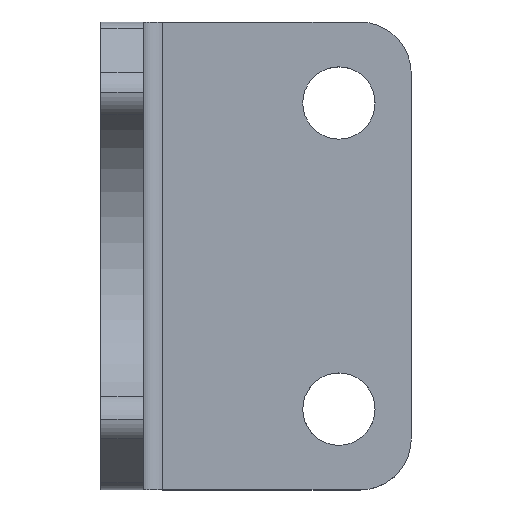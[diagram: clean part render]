
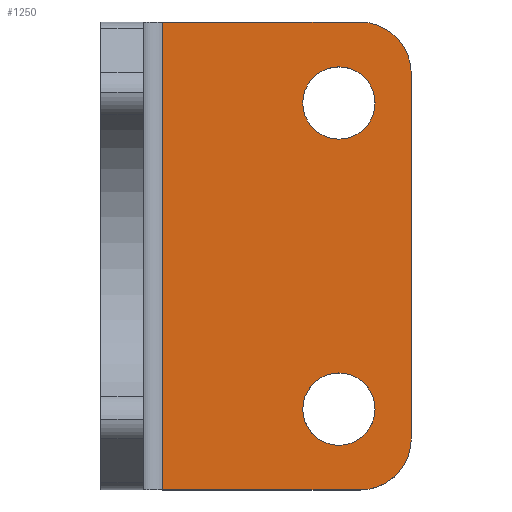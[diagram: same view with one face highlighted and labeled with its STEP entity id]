
A CAD part, top view. The second image highlights one B-rep face of the part: STEP entity #1250.
In plain terms, the highlighted planar face has unit normal (0, 0, 1).
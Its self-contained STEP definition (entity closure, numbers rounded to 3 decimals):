
#763=CARTESIAN_POINT('Vertex',(7.25,27.5,0.)) ;
#789=CARTESIAN_POINT('Vertex',(7.25,-27.5,0.)) ;
#844=CARTESIAN_POINT('Vertex',(23.75,18.,0.)) ;
#847=CARTESIAN_POINT('Axis2P3D Location',(28.,18.,0.)) ;
#851=CARTESIAN_POINT('Vertex',(28.,13.75,0.)) ;
#871=CARTESIAN_POINT('Axis2P3D Location',(28.,18.,0.)) ;
#875=CARTESIAN_POINT('Vertex',(28.,22.25,0.)) ;
#908=CARTESIAN_POINT('Vertex',(32.25,18.,0.)) ;
#911=CARTESIAN_POINT('Axis2P3D Location',(28.,18.,0.)) ;
#923=CARTESIAN_POINT('Axis2P3D Location',(28.,18.,0.)) ;
#945=CARTESIAN_POINT('Line Origine',(7.25,0.,0.)) ;
#962=CARTESIAN_POINT('Line Origine',(18.875,27.5,0.)) ;
#966=CARTESIAN_POINT('Vertex',(30.5,27.5,0.)) ;
#1006=CARTESIAN_POINT('Vertex',(36.5,21.5,0.)) ;
#1009=CARTESIAN_POINT('Line Origine',(36.5,0.,0.)) ;
#1013=CARTESIAN_POINT('Vertex',(36.5,-21.5,0.)) ;
#1044=CARTESIAN_POINT('Vertex',(30.5,-27.5,0.)) ;
#1047=CARTESIAN_POINT('Line Origine',(18.875,-27.5,0.)) ;
#1069=CARTESIAN_POINT('Axis2P3D Location',(30.5,21.5,0.)) ;
#1091=CARTESIAN_POINT('Axis2P3D Location',(30.5,-21.5,0.)) ;
#1108=CARTESIAN_POINT('Axis2P3D Location',(28.,-18.,0.)) ;
#1112=CARTESIAN_POINT('Vertex',(28.,-13.75,0.)) ;
#1114=CARTESIAN_POINT('Vertex',(23.75,-18.,0.)) ;
#1192=CARTESIAN_POINT('Vertex',(32.25,-18.,0.)) ;
#1195=CARTESIAN_POINT('Axis2P3D Location',(28.,-18.,0.)) ;
#1207=CARTESIAN_POINT('Axis2P3D Location',(0.,0.,0.)) ;
#1221=CARTESIAN_POINT('Control Point',(28.,-22.25,0.)) ;
#1222=CARTESIAN_POINT('Control Point',(29.335,-22.25,0.)) ;
#1223=CARTESIAN_POINT('Control Point',(30.672,-21.727,0.)) ;
#1224=CARTESIAN_POINT('Control Point',(31.727,-20.672,0.)) ;
#1225=CARTESIAN_POINT('Control Point',(32.25,-19.335,0.)) ;
#1226=CARTESIAN_POINT('Control Point',(32.25,-18.,0.)) ;
#1227=CARTESIAN_POINT('Vertex',(28.,-22.25,0.)) ;
#1231=CARTESIAN_POINT('Control Point',(23.75,-18.,0.)) ;
#1232=CARTESIAN_POINT('Control Point',(23.75,-19.335,0.)) ;
#1233=CARTESIAN_POINT('Control Point',(24.273,-20.672,0.)) ;
#1234=CARTESIAN_POINT('Control Point',(25.328,-21.727,0.)) ;
#1235=CARTESIAN_POINT('Control Point',(26.665,-22.25,0.)) ;
#1236=CARTESIAN_POINT('Control Point',(28.,-22.25,0.)) ;
#848=DIRECTION('Axis2P3D Direction',(0.,0.,1.)) ;
#872=DIRECTION('Axis2P3D Direction',(0.,0.,1.)) ;
#912=DIRECTION('Axis2P3D Direction',(0.,0.,1.)) ;
#924=DIRECTION('Axis2P3D Direction',(0.,0.,1.)) ;
#946=DIRECTION('Vector Direction',(0.,1.,0.)) ;
#963=DIRECTION('Vector Direction',(-1.,0.,0.)) ;
#1010=DIRECTION('Vector Direction',(0.,-1.,0.)) ;
#1048=DIRECTION('Vector Direction',(-1.,0.,0.)) ;
#1070=DIRECTION('Axis2P3D Direction',(0.,0.,1.)) ;
#1092=DIRECTION('Axis2P3D Direction',(0.,0.,1.)) ;
#1109=DIRECTION('Axis2P3D Direction',(0.,0.,1.)) ;
#1196=DIRECTION('Axis2P3D Direction',(0.,0.,1.)) ;
#1208=DIRECTION('Axis2P3D Direction',(0.,0.,1.)) ;
#1209=DIRECTION('Axis2P3D XDirection',(0.,-1.,0.)) ;
#849=AXIS2_PLACEMENT_3D('Circle Axis2P3D',#847,#848,$) ;
#873=AXIS2_PLACEMENT_3D('Circle Axis2P3D',#871,#872,$) ;
#913=AXIS2_PLACEMENT_3D('Circle Axis2P3D',#911,#912,$) ;
#925=AXIS2_PLACEMENT_3D('Circle Axis2P3D',#923,#924,$) ;
#1071=AXIS2_PLACEMENT_3D('Circle Axis2P3D',#1069,#1070,$) ;
#1093=AXIS2_PLACEMENT_3D('Circle Axis2P3D',#1091,#1092,$) ;
#1110=AXIS2_PLACEMENT_3D('Circle Axis2P3D',#1108,#1109,$) ;
#1197=AXIS2_PLACEMENT_3D('Circle Axis2P3D',#1195,#1196,$) ;
#1210=AXIS2_PLACEMENT_3D('Plane Axis2P3D',#1207,#1208,#1209) ;
#1213=ORIENTED_EDGE('',*,*,#949,.F.) ;
#1214=ORIENTED_EDGE('',*,*,#1051,.F.) ;
#1215=ORIENTED_EDGE('',*,*,#1095,.T.) ;
#1216=ORIENTED_EDGE('',*,*,#1015,.F.) ;
#1217=ORIENTED_EDGE('',*,*,#1073,.T.) ;
#1218=ORIENTED_EDGE('',*,*,#968,.T.) ;
#1239=ORIENTED_EDGE('',*,*,#1229,.F.) ;
#1240=ORIENTED_EDGE('',*,*,#1237,.F.) ;
#1241=ORIENTED_EDGE('',*,*,#1116,.F.) ;
#1242=ORIENTED_EDGE('',*,*,#1199,.F.) ;
#1245=ORIENTED_EDGE('',*,*,#927,.F.) ;
#1246=ORIENTED_EDGE('',*,*,#853,.F.) ;
#1247=ORIENTED_EDGE('',*,*,#877,.F.) ;
#1248=ORIENTED_EDGE('',*,*,#915,.F.) ;
#1243=FACE_BOUND('',#1238,.T.) ;
#1249=FACE_BOUND('',#1244,.T.) ;
#947=VECTOR('Line Direction',#946,1.) ;
#964=VECTOR('Line Direction',#963,1.) ;
#1011=VECTOR('Line Direction',#1010,1.) ;
#1049=VECTOR('Line Direction',#1048,1.) ;
#1250=ADVANCED_FACE('PartBody',(#1219,#1243,#1249),#1211,.T.) ;
#1220=B_SPLINE_CURVE_WITH_KNOTS('',5,(#1221,#1222,#1223,#1224,#1225,#1226),.UNSPECIFIED.,.F.,.U.,(6,6),(26.704,33.379),.UNSPECIFIED.) ;
#1230=B_SPLINE_CURVE_WITH_KNOTS('',5,(#1231,#1232,#1233,#1234,#1235,#1236),.UNSPECIFIED.,.F.,.U.,(6,6),(20.028,26.704),.UNSPECIFIED.) ;
#850=CIRCLE('generated circle',#849,4.25) ;
#874=CIRCLE('generated circle',#873,4.25) ;
#914=CIRCLE('generated circle',#913,4.25) ;
#926=CIRCLE('generated circle',#925,4.25) ;
#1072=CIRCLE('generated circle',#1071,6.) ;
#1094=CIRCLE('generated circle',#1093,6.) ;
#1111=CIRCLE('generated circle',#1110,4.25) ;
#1198=CIRCLE('generated circle',#1197,4.25) ;
#853=EDGE_CURVE('',#845,#852,#850,.T.) ;
#877=EDGE_CURVE('',#876,#845,#874,.T.) ;
#915=EDGE_CURVE('',#909,#876,#914,.T.) ;
#927=EDGE_CURVE('',#852,#909,#926,.T.) ;
#949=EDGE_CURVE('',#790,#764,#948,.T.) ;
#968=EDGE_CURVE('',#967,#764,#965,.T.) ;
#1015=EDGE_CURVE('',#1007,#1014,#1012,.T.) ;
#1051=EDGE_CURVE('',#1045,#790,#1050,.T.) ;
#1073=EDGE_CURVE('',#1007,#967,#1072,.T.) ;
#1095=EDGE_CURVE('',#1045,#1014,#1094,.T.) ;
#1116=EDGE_CURVE('',#1113,#1115,#1111,.T.) ;
#1199=EDGE_CURVE('',#1193,#1113,#1198,.T.) ;
#1229=EDGE_CURVE('',#1228,#1193,#1220,.T.) ;
#1237=EDGE_CURVE('',#1115,#1228,#1230,.T.) ;
#1212=EDGE_LOOP('',(#1213,#1214,#1215,#1216,#1217,#1218)) ;
#1238=EDGE_LOOP('',(#1239,#1240,#1241,#1242)) ;
#1244=EDGE_LOOP('',(#1245,#1246,#1247,#1248)) ;
#1219=FACE_OUTER_BOUND('',#1212,.T.) ;
#948=LINE('Line',#945,#947) ;
#965=LINE('Line',#962,#964) ;
#1012=LINE('Line',#1009,#1011) ;
#1050=LINE('Line',#1047,#1049) ;
#1211=PLANE('',#1210) ;
#764=VERTEX_POINT('',#763) ;
#790=VERTEX_POINT('',#789) ;
#845=VERTEX_POINT('',#844) ;
#852=VERTEX_POINT('',#851) ;
#876=VERTEX_POINT('',#875) ;
#909=VERTEX_POINT('',#908) ;
#967=VERTEX_POINT('',#966) ;
#1007=VERTEX_POINT('',#1006) ;
#1014=VERTEX_POINT('',#1013) ;
#1045=VERTEX_POINT('',#1044) ;
#1113=VERTEX_POINT('',#1112) ;
#1115=VERTEX_POINT('',#1114) ;
#1193=VERTEX_POINT('',#1192) ;
#1228=VERTEX_POINT('',#1227) ;
